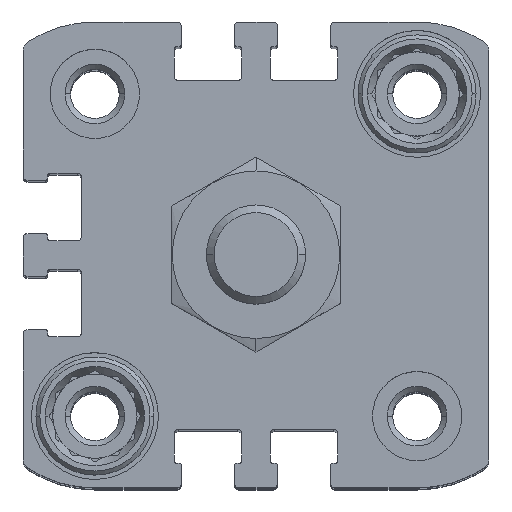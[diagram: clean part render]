
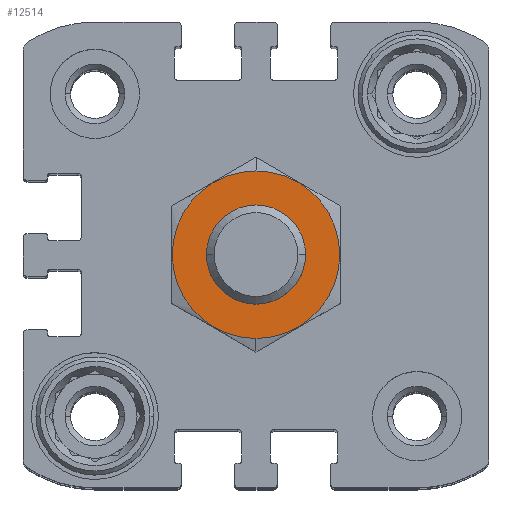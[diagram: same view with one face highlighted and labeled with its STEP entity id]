
A CAD part, top view. The second image highlights one B-rep face of the part: STEP entity #12514.
In plain terms, the highlighted planar face has unit normal (0, 0, 1) as drawn and (0, 1, 0) by its records, which use the part's own axes.
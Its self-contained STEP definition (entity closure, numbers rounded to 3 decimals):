
#679 = VERTEX_POINT ( 'NONE', #4074 ) ;
#1016 = PLANE ( 'NONE',  #9351 ) ;
#1101 = DIRECTION ( 'NONE',  ( 0., 0., 1. ) ) ;
#1555 = CIRCLE ( 'NONE', #6864, 8.45 ) ;
#2304 = DIRECTION ( 'NONE',  ( 0., 0., -1. ) ) ;
#2364 = VERTEX_POINT ( 'NONE', #10393 ) ;
#2482 = AXIS2_PLACEMENT_3D ( 'NONE', #16142, #8796, #1101 ) ;
#2679 = CARTESIAN_POINT ( 'NONE',  ( 0., 0., 0. ) ) ;
#2700 = DIRECTION ( 'NONE',  ( 0., -1., 0. ) ) ;
#2757 = DIRECTION ( 'NONE',  ( 0., 0., -1. ) ) ;
#3120 = VERTEX_POINT ( 'NONE', #9639 ) ;
#3293 = DIRECTION ( 'NONE',  ( 0., 1., 0. ) ) ;
#4074 = CARTESIAN_POINT ( 'NONE',  ( 0., 0., -8.45 ) ) ;
#4198 = EDGE_CURVE ( 'NONE', #2364, #679, #4368, .T. ) ;
#4368 = CIRCLE ( 'NONE', #5832, 8.45 ) ;
#4701 = CARTESIAN_POINT ( 'NONE',  ( 0., 0., 0. ) ) ;
#5245 = ORIENTED_EDGE ( 'NONE', *, *, #13776, .F. ) ;
#5832 = AXIS2_PLACEMENT_3D ( 'NONE', #2679, #2700, #2757 ) ;
#5905 = EDGE_LOOP ( 'NONE', ( #5245, #10181 ) ) ;
#5974 = DIRECTION ( 'NONE',  ( 0., 0., -1. ) ) ;
#6504 = CIRCLE ( 'NONE', #2482, 5. ) ;
#6864 = AXIS2_PLACEMENT_3D ( 'NONE', #4701, #13459, #5974 ) ;
#6941 = AXIS2_PLACEMENT_3D ( 'NONE', #10917, #3293, #12133 ) ;
#7830 = EDGE_CURVE ( 'NONE', #679, #2364, #1555, .T. ) ;
#8558 = ORIENTED_EDGE ( 'NONE', *, *, #7830, .F. ) ;
#8710 = CARTESIAN_POINT ( 'NONE',  ( 0., 0., 0. ) ) ;
#8796 = DIRECTION ( 'NONE',  ( 0., 1., 0. ) ) ;
#9351 = AXIS2_PLACEMENT_3D ( 'NONE', #8710, #9951, #2304 ) ;
#9639 = CARTESIAN_POINT ( 'NONE',  ( 0., 0., 5. ) ) ;
#9951 = DIRECTION ( 'NONE',  ( 0., -1., 0. ) ) ;
#10181 = ORIENTED_EDGE ( 'NONE', *, *, #15468, .F. ) ;
#10393 = CARTESIAN_POINT ( 'NONE',  ( 0., 0., 8.45 ) ) ;
#10917 = CARTESIAN_POINT ( 'NONE',  ( 0., 0., 0. ) ) ;
#11292 = VERTEX_POINT ( 'NONE', #14513 ) ;
#11814 = FACE_BOUND ( 'NONE', #5905, .T. ) ;
#12133 = DIRECTION ( 'NONE',  ( 0., 0., 1. ) ) ;
#12514 = ADVANCED_FACE ( 'NONE', ( #11814, #15057 ), #1016, .F. ) ;
#13206 = ORIENTED_EDGE ( 'NONE', *, *, #4198, .F. ) ;
#13459 = DIRECTION ( 'NONE',  ( 0., -1., 0. ) ) ;
#13520 = CIRCLE ( 'NONE', #6941, 5. ) ;
#13776 = EDGE_CURVE ( 'NONE', #3120, #11292, #13520, .T. ) ;
#14513 = CARTESIAN_POINT ( 'NONE',  ( 0., 0., -5. ) ) ;
#15057 = FACE_OUTER_BOUND ( 'NONE', #16242, .T. ) ;
#15468 = EDGE_CURVE ( 'NONE', #11292, #3120, #6504, .T. ) ;
#16142 = CARTESIAN_POINT ( 'NONE',  ( 0., 0., 0. ) ) ;
#16242 = EDGE_LOOP ( 'NONE', ( #8558, #13206 ) ) ;
